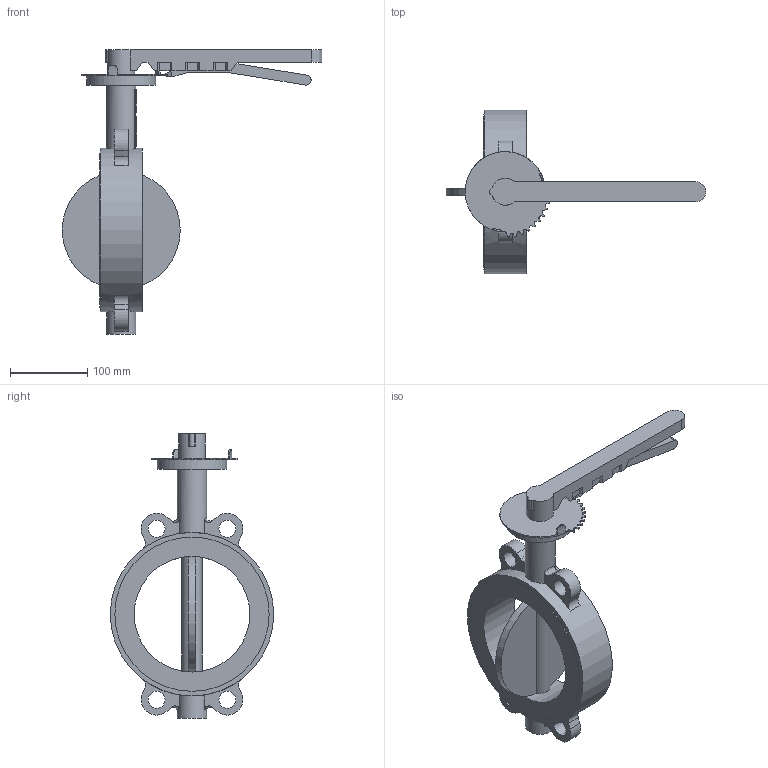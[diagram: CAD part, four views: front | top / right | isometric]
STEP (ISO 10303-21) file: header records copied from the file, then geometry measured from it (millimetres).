
FILE_DESCRIPTION(('STEP AP203'), '1');
FILE_NAME('青蜮铕 015WDN150', '', ('UNSPECIFIED'), ('UNSPECIFIED'), 'ASCON STEP Converter 1.6', 'ASCON Math Kernel', '');
FILE_SCHEMA(('CONFIG_CONTROL_DESIGN'));
Length unit declared in the file: millimetre
Bounding box: 336.5 x 212 x 369 mm (x, y, z)
Volume: 199502 mm3; surface area: 238471 mm2
Topology: 1 solids, 2 shells, 749 faces, 2216 edges, 1430 vertices
Faces by surface type: cylinder 490, plane 253, bspline 6
Full cylindrical faces by diameter (mm): 10 x4, 18.9 x1, 22 x4, 35 x1, 38 x2, 55 x1, 90 x1, 150 x1, 200 x2, 212 x1
Entity records: 33488 total; most frequent: CARTESIAN_POINT 6625, DIRECTION 4665, ORIENTED_EDGE 4335, EDGE_CURVE 2199, AXIS2_PLACEMENT_3D 1775, VERTEX_POINT 1430, LINE 1115, VECTOR 1115
